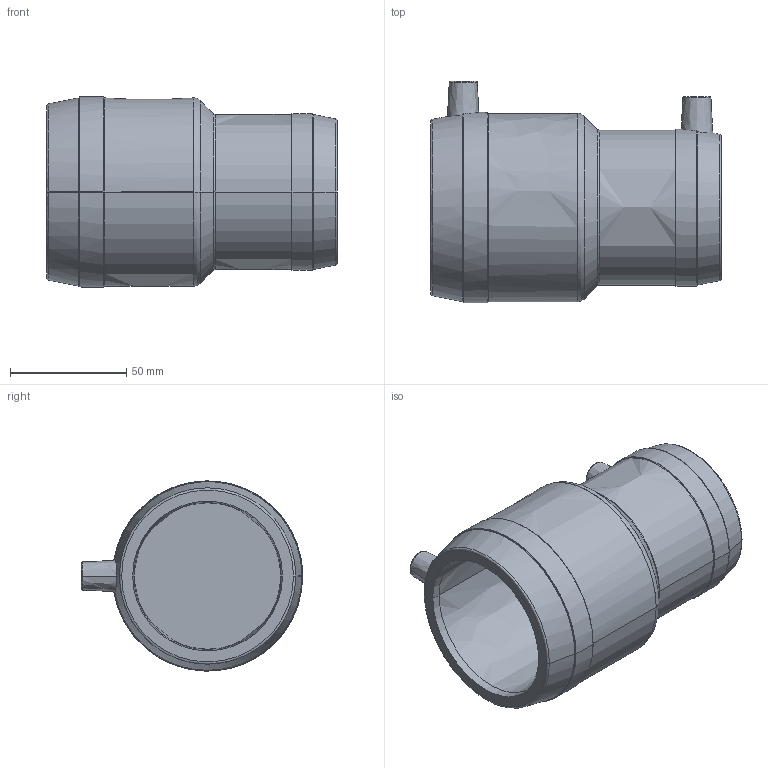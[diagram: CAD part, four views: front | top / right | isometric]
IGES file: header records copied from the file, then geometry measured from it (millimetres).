
Start section:  PTC IGES file: mr-stopp_mertik_d63-50_01.igs
Global section: file name: mr-stopp_mertik_d63-50_01.igs; native system: Pro/ENGINEER by Parametric Technology Corporation; preprocessor: 2011490; author: mtunjic; organization: Unknown; date: 20130819.084613; units: millimetre
Bounding box: 125 x 95.2 x 81.8 mm (x, y, z)
Surface area: 59965 mm2 (no closed solid volume)
Topology: 0 solids, 0 shells, 191 faces, 950 edges, 950 vertices
Faces by surface type: bspline 191
